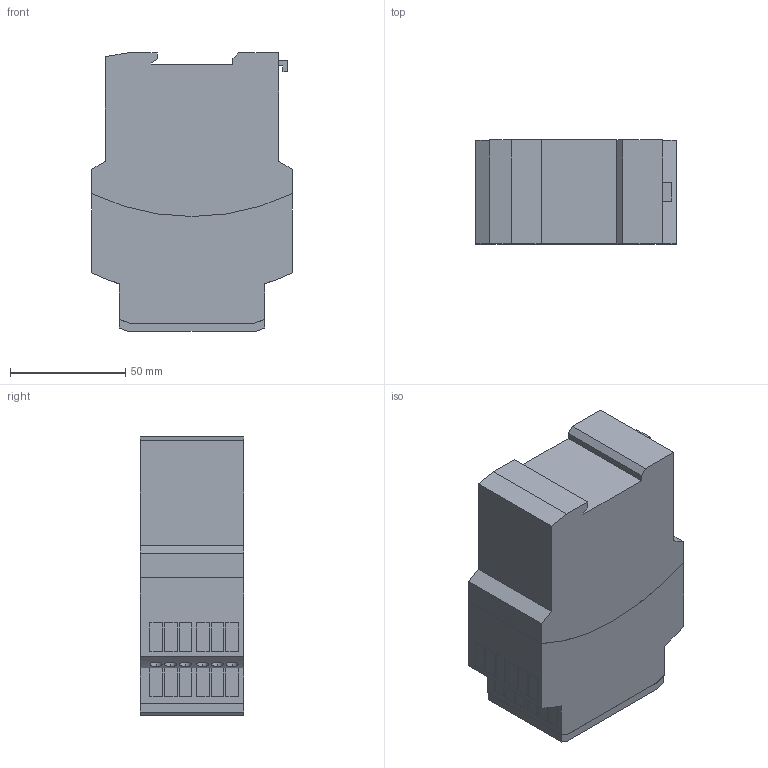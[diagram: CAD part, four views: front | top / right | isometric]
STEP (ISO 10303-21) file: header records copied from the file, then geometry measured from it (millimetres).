
FILE_DESCRIPTION((''),'2;1');
FILE_NAME('2009093','2011-06-30T',('merz'),(''),'PRO/ENGINEER BY PARAMETRIC TECHNOLOGY CORPORATION, 2009380','PRO/ENGINEER BY PARAMETRIC TECHNOLOGY CORPORATION, 2009380','');
FILE_SCHEMA(('AUTOMOTIVE_DESIGN_CC2 { 1 2 10303 214 -1 1 5 2 }'));
Length unit declared in the file: millimetre
Products named in the file (1): 2009093
Bounding box: 87 x 45 x 120.6 mm (x, y, z)
Volume: 411385.6 mm3; surface area: 37468.6 mm2
Topology: 1 solids, 1 shells, 274 faces, 697 edges, 498 vertices
Faces by surface type: plane 218, cylinder 56
Entity records: 8497 total; most frequent: CARTESIAN_POINT 1722, ORIENTED_EDGE 1332, DIRECTION 1311, EDGE_CURVE 666, VECTOR 585, LINE 585, VERTEX_POINT 436, AXIS2_PLACEMENT_3D 363
